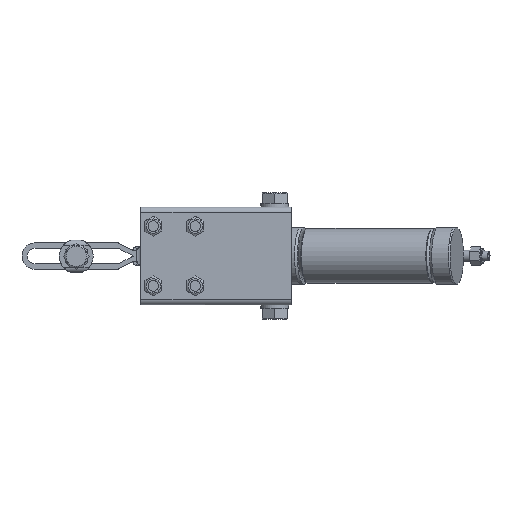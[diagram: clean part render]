
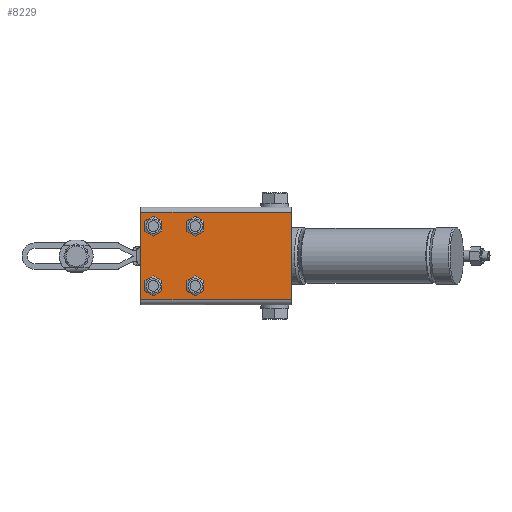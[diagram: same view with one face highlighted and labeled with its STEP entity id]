
A CAD part, front view. The second image highlights one B-rep face of the part: STEP entity #8229.
In plain terms, the highlighted planar face has unit normal (0, -1, 0).
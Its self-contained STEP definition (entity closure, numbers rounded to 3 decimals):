
#574=FACE_BOUND('',#1493,.T.);
#575=FACE_BOUND('',#1494,.T.);
#576=FACE_BOUND('',#1495,.T.);
#577=FACE_BOUND('',#1496,.T.);
#691=PLANE('',#9301);
#1006=FACE_OUTER_BOUND('',#1492,.T.);
#1492=EDGE_LOOP('',(#5702,#5703,#5704,#5705));
#1493=EDGE_LOOP('',(#5706));
#1494=EDGE_LOOP('',(#5707));
#1495=EDGE_LOOP('',(#5708));
#1496=EDGE_LOOP('',(#5709));
#2092=LINE('',#12965,#2681);
#2094=LINE('',#12978,#2683);
#2096=LINE('',#12984,#2685);
#2097=LINE('',#12985,#2686);
#2681=VECTOR('',#10340,10.);
#2683=VECTOR('',#10346,10.);
#2685=VECTOR('',#10352,10.);
#2686=VECTOR('',#10353,10.);
#3267=CIRCLE('',#9286,4.15);
#3269=CIRCLE('',#9289,4.15);
#3271=CIRCLE('',#9292,4.15);
#3273=CIRCLE('',#9295,4.15);
#3704=VERTEX_POINT('',#12939);
#3706=VERTEX_POINT('',#12945);
#3708=VERTEX_POINT('',#12951);
#3710=VERTEX_POINT('',#12957);
#3712=VERTEX_POINT('',#12962);
#3713=VERTEX_POINT('',#12964);
#3716=VERTEX_POINT('',#12977);
#3718=VERTEX_POINT('',#12983);
#4493=EDGE_CURVE('',#3704,#3704,#3267,.T.);
#4496=EDGE_CURVE('',#3706,#3706,#3269,.T.);
#4499=EDGE_CURVE('',#3708,#3708,#3271,.T.);
#4502=EDGE_CURVE('',#3710,#3710,#3273,.T.);
#4504=EDGE_CURVE('',#3712,#3713,#2092,.T.);
#4508=EDGE_CURVE('',#3713,#3716,#2094,.T.);
#4511=EDGE_CURVE('',#3712,#3718,#2096,.T.);
#4512=EDGE_CURVE('',#3716,#3718,#2097,.T.);
#5702=ORIENTED_EDGE('',*,*,#4504,.F.);
#5703=ORIENTED_EDGE('',*,*,#4511,.T.);
#5704=ORIENTED_EDGE('',*,*,#4512,.F.);
#5705=ORIENTED_EDGE('',*,*,#4508,.F.);
#5706=ORIENTED_EDGE('',*,*,#4493,.T.);
#5707=ORIENTED_EDGE('',*,*,#4496,.T.);
#5708=ORIENTED_EDGE('',*,*,#4499,.T.);
#5709=ORIENTED_EDGE('',*,*,#4502,.T.);
#8229=ADVANCED_FACE('',(#1006,#574,#575,#576,#577),#691,.T.);
#9286=AXIS2_PLACEMENT_3D('',#12941,#10313,#10314);
#9289=AXIS2_PLACEMENT_3D('',#12947,#10320,#10321);
#9292=AXIS2_PLACEMENT_3D('',#12953,#10327,#10328);
#9295=AXIS2_PLACEMENT_3D('',#12959,#10334,#10335);
#9301=AXIS2_PLACEMENT_3D('',#12982,#10350,#10351);
#10313=DIRECTION('center_axis',(0.,1.,0.));
#10314=DIRECTION('ref_axis',(-1.,0.,0.));
#10320=DIRECTION('center_axis',(0.,1.,0.));
#10321=DIRECTION('ref_axis',(-1.,0.,0.));
#10327=DIRECTION('center_axis',(0.,1.,0.));
#10328=DIRECTION('ref_axis',(-1.,0.,0.));
#10334=DIRECTION('center_axis',(0.,1.,0.));
#10335=DIRECTION('ref_axis',(-1.,0.,0.));
#10340=DIRECTION('',(-1.,0.,0.));
#10346=DIRECTION('',(0.,0.,1.));
#10350=DIRECTION('center_axis',(0.,-1.,0.));
#10351=DIRECTION('ref_axis',(1.,0.,0.));
#10352=DIRECTION('',(0.,0.,1.));
#10353=DIRECTION('',(1.,0.,0.));
#12939=CARTESIAN_POINT('',(45.45,0.,-11.2));
#12941=CARTESIAN_POINT('Origin',(41.3,0.,-11.2));
#12945=CARTESIAN_POINT('',(13.65,0.,-56.4));
#12947=CARTESIAN_POINT('Origin',(9.5,0.,-56.4));
#12951=CARTESIAN_POINT('',(45.45,0.,-56.4));
#12953=CARTESIAN_POINT('Origin',(41.3,0.,-56.4));
#12957=CARTESIAN_POINT('',(13.65,0.,-11.2));
#12959=CARTESIAN_POINT('Origin',(9.5,0.,-11.2));
#12962=CARTESIAN_POINT('',(114.3,0.,-66.8));
#12964=CARTESIAN_POINT('',(0.,0.,-66.8));
#12965=CARTESIAN_POINT('',(33.77,0.,-66.8));
#12977=CARTESIAN_POINT('',(0.,0.,-0.8));
#12978=CARTESIAN_POINT('',(0.,0.,0.));
#12982=CARTESIAN_POINT('Origin',(0.,0.,0.));
#12983=CARTESIAN_POINT('',(114.3,0.,-0.8));
#12984=CARTESIAN_POINT('',(114.3,0.,0.));
#12985=CARTESIAN_POINT('',(33.77,0.,-0.8));
